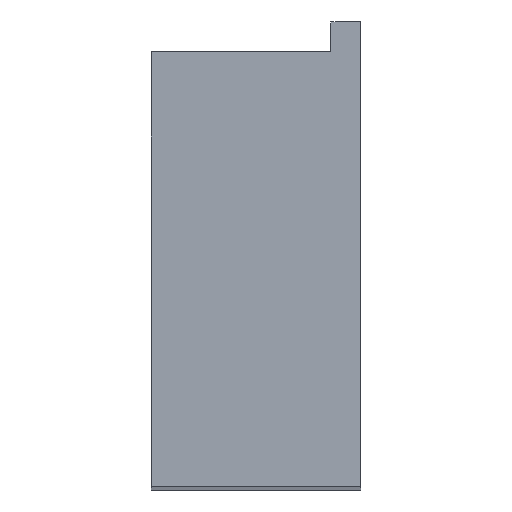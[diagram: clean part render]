
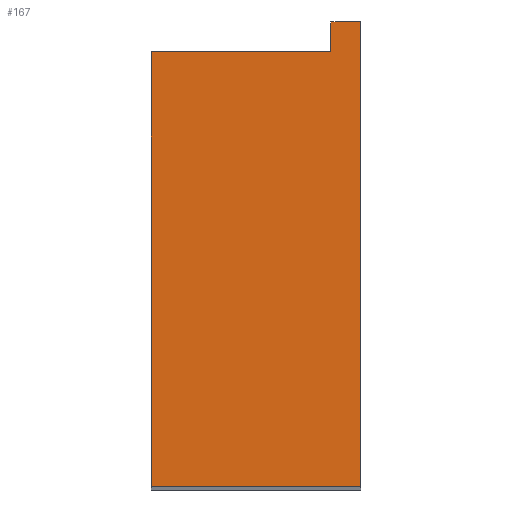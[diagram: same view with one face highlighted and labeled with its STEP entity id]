
A CAD part, top view. The second image highlights one B-rep face of the part: STEP entity #167.
In plain terms, the highlighted planar face has unit normal (0, 0, 1).
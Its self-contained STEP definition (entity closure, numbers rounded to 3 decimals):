
#1 = ORIENTED_EDGE ( 'NONE', *, *, #1563, .T. ) ;
#37 = CARTESIAN_POINT ( 'NONE',  ( -7., -15.5, 72.5 ) ) ;
#45 = ORIENTED_EDGE ( 'NONE', *, *, #728, .F. ) ;
#50 = CARTESIAN_POINT ( 'NONE',  ( -7., 15.5, 72.5 ) ) ;
#89 = CARTESIAN_POINT ( 'NONE',  ( 5., 15.5, 72.5 ) ) ;
#103 = VERTEX_POINT ( 'NONE', #1136 ) ;
#112 = ORIENTED_EDGE ( 'NONE', *, *, #1379, .F. ) ;
#160 = DIRECTION ( 'NONE',  ( 1., 0., 0. ) ) ;
#167 = ADVANCED_FACE ( 'NONE', ( #201 ), #944, .T. ) ;
#188 = EDGE_CURVE ( 'NONE', #220, #449, #1061, .T. ) ;
#201 = FACE_OUTER_BOUND ( 'NONE', #987, .T. ) ;
#208 = CARTESIAN_POINT ( 'NONE',  ( 7., 15.5, 72.5 ) ) ;
#220 = VERTEX_POINT ( 'NONE', #208 ) ;
#222 = DIRECTION ( 'NONE',  ( 1., 0., 0. ) ) ;
#225 = CARTESIAN_POINT ( 'NONE',  ( -7., 13.5, 72.5 ) ) ;
#232 = AXIS2_PLACEMENT_3D ( 'NONE', #956, #1160, #160 ) ;
#244 = DIRECTION ( 'NONE',  ( 0., -1., 0. ) ) ;
#270 = ORIENTED_EDGE ( 'NONE', *, *, #188, .T. ) ;
#317 = LINE ( 'NONE', #1456, #1125 ) ;
#346 = ORIENTED_EDGE ( 'NONE', *, *, #1290, .T. ) ;
#365 = CARTESIAN_POINT ( 'NONE',  ( 5., 13.5, 72.5 ) ) ;
#449 = VERTEX_POINT ( 'NONE', #708 ) ;
#491 = CARTESIAN_POINT ( 'NONE',  ( -7., 15.5, 72.5 ) ) ;
#521 = EDGE_CURVE ( 'NONE', #963, #103, #1594, .T. ) ;
#526 = VECTOR ( 'NONE', #244, 1000. ) ;
#552 = DIRECTION ( 'NONE',  ( 0., 1., 0. ) ) ;
#708 = CARTESIAN_POINT ( 'NONE',  ( 5., 15.5, 72.5 ) ) ;
#725 = ORIENTED_EDGE ( 'NONE', *, *, #521, .T. ) ;
#728 = EDGE_CURVE ( 'NONE', #963, #1281, #317, .T. ) ;
#772 = LINE ( 'NONE', #89, #1296 ) ;
#809 = VECTOR ( 'NONE', #1116, 1000. ) ;
#865 = VECTOR ( 'NONE', #1210, 1000. ) ;
#944 = PLANE ( 'NONE',  #232 ) ;
#956 = CARTESIAN_POINT ( 'NONE',  ( 0., 0., 72.5 ) ) ;
#963 = VERTEX_POINT ( 'NONE', #225 ) ;
#984 = VERTEX_POINT ( 'NONE', #1309 ) ;
#987 = EDGE_LOOP ( 'NONE', ( #112, #45, #725, #346, #1, #270 ) ) ;
#1061 = LINE ( 'NONE', #491, #1399 ) ;
#1077 = LINE ( 'NONE', #37, #809 ) ;
#1116 = DIRECTION ( 'NONE',  ( 1., 0., 0. ) ) ;
#1125 = VECTOR ( 'NONE', #222, 1000. ) ;
#1136 = CARTESIAN_POINT ( 'NONE',  ( -7., -15.5, 72.5 ) ) ;
#1145 = CARTESIAN_POINT ( 'NONE',  ( 7., 15.5, 72.5 ) ) ;
#1160 = DIRECTION ( 'NONE',  ( 0., 0., 1. ) ) ;
#1210 = DIRECTION ( 'NONE',  ( 0., 1., 0. ) ) ;
#1281 = VERTEX_POINT ( 'NONE', #365 ) ;
#1290 = EDGE_CURVE ( 'NONE', #103, #984, #1077, .T. ) ;
#1296 = VECTOR ( 'NONE', #552, 1000. ) ;
#1309 = CARTESIAN_POINT ( 'NONE',  ( 7., -15.5, 72.5 ) ) ;
#1379 = EDGE_CURVE ( 'NONE', #1281, #449, #772, .T. ) ;
#1399 = VECTOR ( 'NONE', #1512, 1000. ) ;
#1456 = CARTESIAN_POINT ( 'NONE',  ( -7., 13.5, 72.5 ) ) ;
#1512 = DIRECTION ( 'NONE',  ( -1., 0., 0. ) ) ;
#1563 = EDGE_CURVE ( 'NONE', #984, #220, #1598, .T. ) ;
#1594 = LINE ( 'NONE', #50, #526 ) ;
#1598 = LINE ( 'NONE', #1145, #865 ) ;
